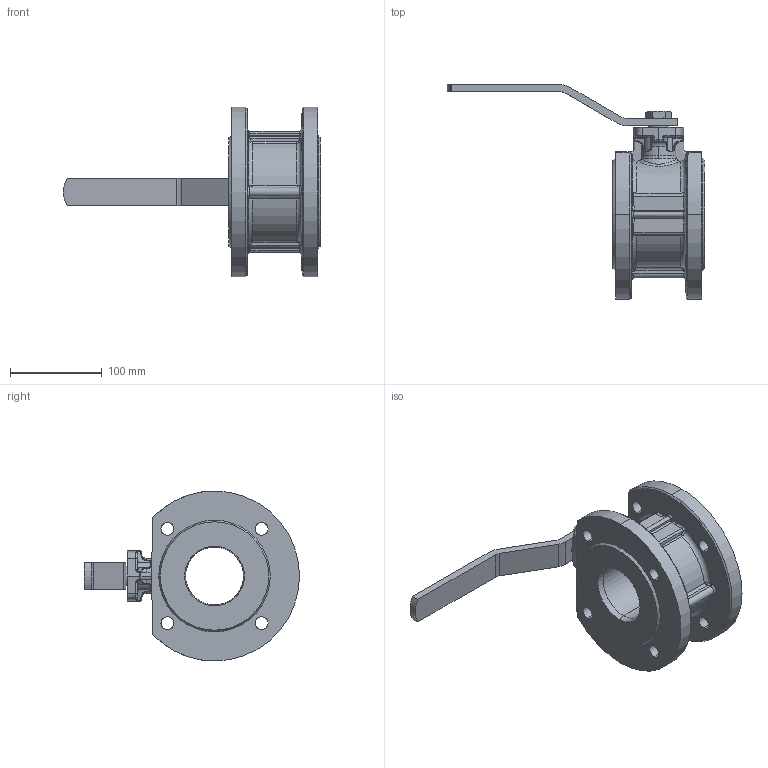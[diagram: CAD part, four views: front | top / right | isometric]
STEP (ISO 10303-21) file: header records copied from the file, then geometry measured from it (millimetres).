
FILE_DESCRIPTION (( 'STEP AP203' ), '1' );
FILE_NAME ('B1.000I065L16CN_1.STEP', '2012-06-08T15:33:20', ( ' ' ), ( '' ), 'SwSTEP 2.0', 'SolidWorks 2009', '' );
FILE_SCHEMA (( 'CONFIG_CONTROL_DESIGN' ));
Length unit declared in the file: millimetre
Products named in the file (1): B1.000I065L16CN_1
Bounding box: 280 x 234.03 x 185 mm (x, y, z)
Volume: 1385118.9 mm3; surface area: 165705.7 mm2
Topology: 1 solids, 1 shells, 445 faces, 1088 edges, 640 vertices
Faces by surface type: bspline 170, cylinder 122, plane 65, cone 42, torus 38, sphere 8
Entity records: 20824 total; most frequent: CARTESIAN_POINT 11754, ORIENTED_EDGE 2152, DIRECTION 1524, EDGE_CURVE 1076, AXIS2_PLACEMENT_3D 643, VERTEX_POINT 640, EDGE_LOOP 478, FACE_OUTER_BOUND 445
